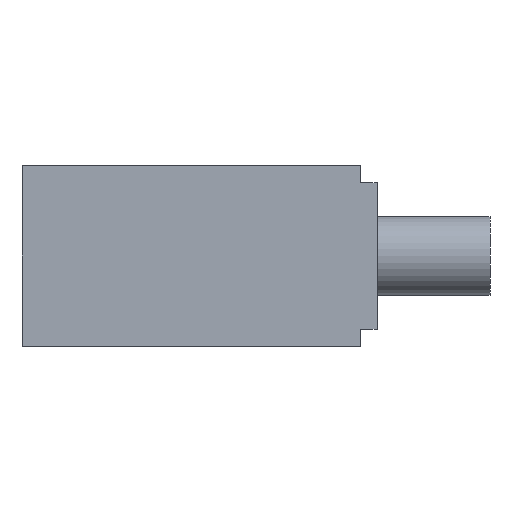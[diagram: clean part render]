
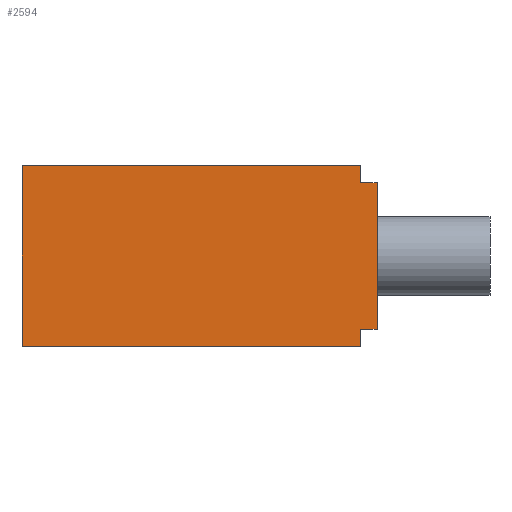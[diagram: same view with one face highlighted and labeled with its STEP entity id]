
A CAD part, front view. The second image highlights one B-rep face of the part: STEP entity #2594.
In plain terms, the highlighted planar face has unit normal (0, -1, 0) as drawn and (0, 0, -1) by its records, which use the part's own axes.
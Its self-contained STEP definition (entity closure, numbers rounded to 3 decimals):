
#174=LINE('',#4152,#389);
#178=LINE('',#4163,#393);
#186=LINE('',#4178,#401);
#218=LINE('',#4281,#433);
#234=LINE('',#4326,#449);
#250=LINE('',#4359,#465);
#253=LINE('',#4364,#468);
#254=LINE('',#4366,#469);
#389=VECTOR('',#3372,13.);
#393=VECTOR('',#3380,1.5);
#401=VECTOR('',#3388,1.5);
#433=VECTOR('',#3492,30.);
#449=VECTOR('',#3536,16.);
#465=VECTOR('',#3574,30.);
#468=VECTOR('',#3581,1.5);
#469=VECTOR('',#3584,1.5);
#703=PLANE('',#2855);
#922=FACE_OUTER_BOUND('',#1094,.T.);
#1094=EDGE_LOOP('',(#2441,#2442,#2443,#2444,#2445,#2446,#2447,#2448));
#1370=VERTEX_POINT('',#4149);
#1371=VERTEX_POINT('',#4151);
#1373=VERTEX_POINT('',#4156);
#1375=VERTEX_POINT('',#4160);
#1376=VERTEX_POINT('',#4162);
#1383=VERTEX_POINT('',#4176);
#1418=VERTEX_POINT('',#4279);
#1433=VERTEX_POINT('',#4324);
#1672=EDGE_CURVE('',#1371,#1370,#174,.T.);
#1677=EDGE_CURVE('',#1376,#1375,#178,.T.);
#1685=EDGE_CURVE('',#1373,#1383,#186,.T.);
#1734=EDGE_CURVE('',#1383,#1418,#218,.T.);
#1756=EDGE_CURVE('',#1433,#1418,#234,.T.);
#1773=EDGE_CURVE('',#1433,#1376,#250,.T.);
#1776=EDGE_CURVE('',#1375,#1371,#253,.T.);
#1777=EDGE_CURVE('',#1373,#1370,#254,.T.);
#2441=ORIENTED_EDGE('',*,*,#1672,.T.);
#2442=ORIENTED_EDGE('',*,*,#1777,.F.);
#2443=ORIENTED_EDGE('',*,*,#1685,.T.);
#2444=ORIENTED_EDGE('',*,*,#1734,.T.);
#2445=ORIENTED_EDGE('',*,*,#1756,.F.);
#2446=ORIENTED_EDGE('',*,*,#1773,.T.);
#2447=ORIENTED_EDGE('',*,*,#1677,.T.);
#2448=ORIENTED_EDGE('',*,*,#1776,.T.);
#2594=ADVANCED_FACE('',(#922),#703,.T.);
#2855=AXIS2_PLACEMENT_3D('',#4365,#3582,#3583);
#3372=DIRECTION('',(0.,-1.,0.));
#3380=DIRECTION('',(0.,-1.,0.));
#3388=DIRECTION('',(0.,-1.,0.));
#3492=DIRECTION('',(-1.,0.,0.));
#3536=DIRECTION('',(0.,-1.,0.));
#3574=DIRECTION('',(1.,0.,0.));
#3581=DIRECTION('',(1.,0.,0.));
#3582=DIRECTION('center_axis',(0.,0.,-1.));
#3583=DIRECTION('ref_axis',(-1.,0.,0.));
#3584=DIRECTION('',(1.,0.,0.));
#4149=CARTESIAN_POINT('',(16.5,-14.5,-40.));
#4151=CARTESIAN_POINT('',(16.5,-1.5,-40.));
#4152=CARTESIAN_POINT('',(16.5,-1.5,-40.));
#4156=CARTESIAN_POINT('',(15.,-14.5,-40.));
#4160=CARTESIAN_POINT('',(15.,-1.5,-40.));
#4162=CARTESIAN_POINT('',(15.,0.,-40.));
#4163=CARTESIAN_POINT('',(15.,0.,-40.));
#4176=CARTESIAN_POINT('',(15.,-16.,-40.));
#4178=CARTESIAN_POINT('',(15.,-14.5,-40.));
#4279=CARTESIAN_POINT('',(-15.,-16.,-40.));
#4281=CARTESIAN_POINT('',(15.,-16.,-40.));
#4324=CARTESIAN_POINT('',(-15.,0.,-40.));
#4326=CARTESIAN_POINT('',(-15.,0.,-40.));
#4359=CARTESIAN_POINT('',(-15.,0.,-40.));
#4364=CARTESIAN_POINT('',(15.,-1.5,-40.));
#4365=CARTESIAN_POINT('Origin',(15.,-1.5,-40.));
#4366=CARTESIAN_POINT('',(15.,-14.5,-40.));
